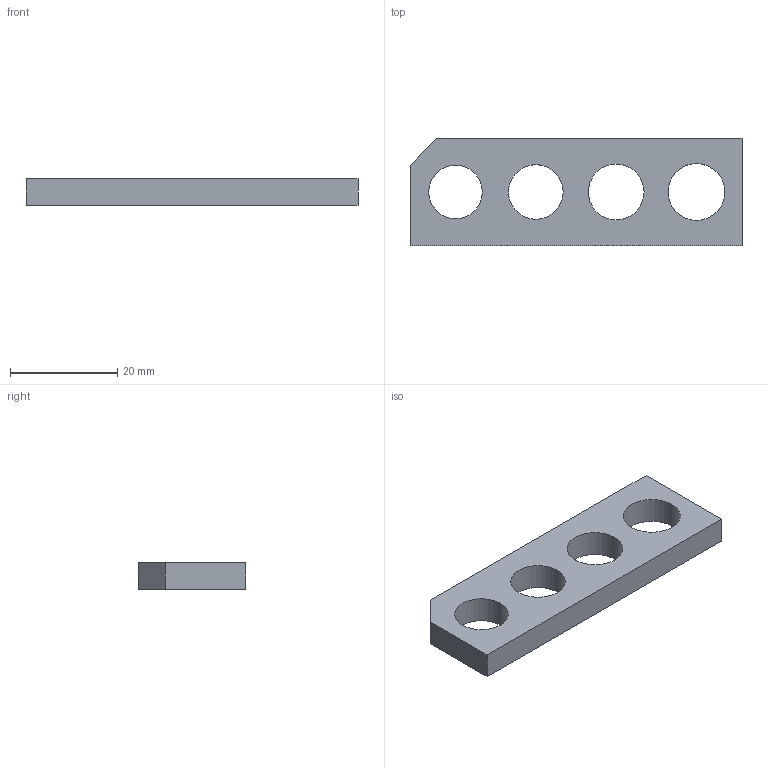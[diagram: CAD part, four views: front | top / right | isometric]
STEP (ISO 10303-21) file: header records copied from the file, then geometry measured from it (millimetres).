
FILE_DESCRIPTION (( 'STEP AP203' ), '1' );
FILE_NAME ('02_bore_fit_coupon.step', '2026-10-06T17:14:12', ( '' ), ( '' ), 'SwSTEP 2.0', 'SolidWorks 2025', '' );
FILE_SCHEMA (( 'CONFIG_CONTROL_DESIGN' ));
Length unit declared in the file: millimetre
Products named in the file (1): 02_bore_fit_coupon
Bounding box: 62 x 20 x 5 mm (x, y, z)
Volume: 4470.3 mm3; surface area: 3240.6 mm2
Topology: 1 solids, 1 shells, 15 faces, 39 edges, 26 vertices
Faces by surface type: cylinder 8, plane 7
Entity records: 562 total; most frequent: DIRECTION 87, CARTESIAN_POINT 81, ORIENTED_EDGE 78, EDGE_CURVE 39, AXIS2_PLACEMENT_3D 32, VERTEX_POINT 26, VECTOR 23, EDGE_LOOP 23
